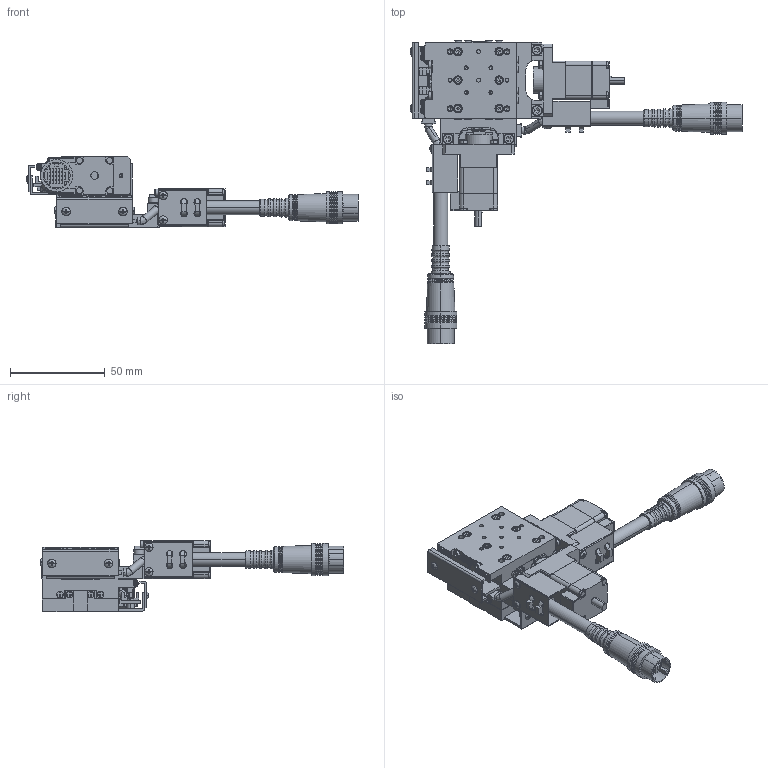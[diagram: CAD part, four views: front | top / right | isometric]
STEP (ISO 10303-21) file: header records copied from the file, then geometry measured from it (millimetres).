
FILE_DESCRIPTION( (''), '2;1');
FILE_NAME ('YA04A-R102-RRN.stp','2022-01-24T15:07:52',(''),(''),'spGate 17.5.5','','');
FILE_SCHEMA (('AUTOMOTIVE_DESIGN'));
Length unit declared in the file: millimetre
Products named in the file (8): Assembly; YA04A-R102-RRN-prt0; YA04A-R102-RRN-prt1; YA04A-R102-RRN-prt2; YA04A-R102-RRN-prt3; YA04A-R102-RRN-prt4; YA04A-R102-RRN-prt5; YA04A-R102-RRN-prt6
Assembly tree (7 placements, depth 2):
  Assembly
    YA04A-R102-RRN-prt0
    YA04A-R102-RRN-prt1
    YA04A-R102-RRN-prt2
    YA04A-R102-RRN-prt3
    YA04A-R102-RRN-prt4
    YA04A-R102-RRN-prt5
    YA04A-R102-RRN-prt6
Bounding box: 175.18 x 160 x 37.65 mm (x, y, z)
Volume: 117249.2 mm3; surface area: 61327.2 mm2
Topology: 7 solids, 15 shells, 3364 faces, 8342 edges, 5130 vertices
Faces by surface type: plane 2088, cylinder 700, bspline 540, sphere 36
Entity records: 167830 total; most frequent: CARTESIAN_POINT 24256, ORIENTED_EDGE 16404, DIRECTION 15280, COLOUR_RGB 11573, PRESENTATION_STYLE_ASSIGNMENT 11573, STYLED_ITEM 11573, EDGE_CURVE 8202, DRAUGHTING_PRE_DEFINED_CURVE_FONT 8202
